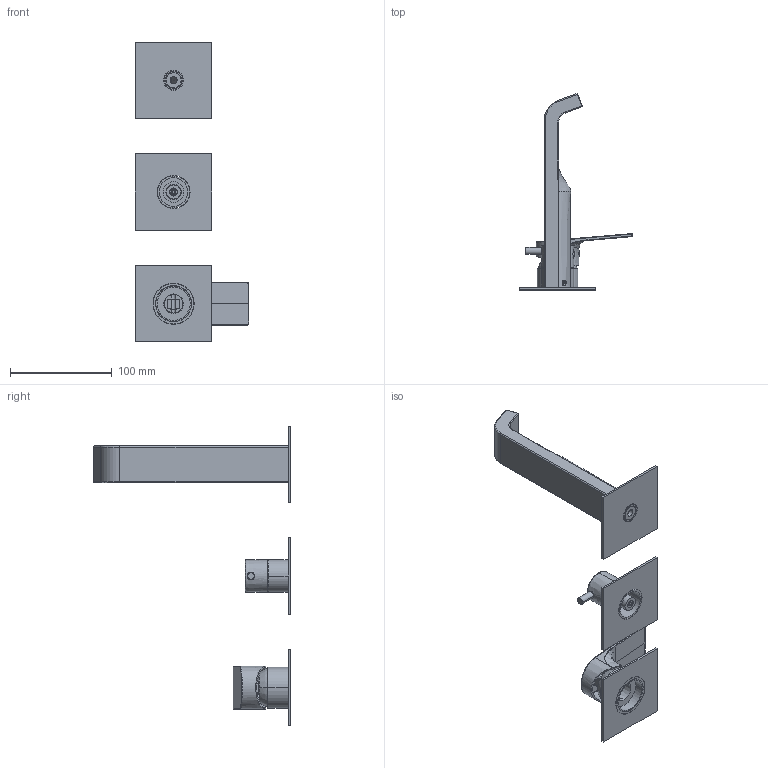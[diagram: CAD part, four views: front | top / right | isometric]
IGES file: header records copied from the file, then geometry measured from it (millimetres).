
Start section:  PTC IGES file: 3d_sw0006.igs
Global section: file name: 3d_sw0006.igs; native system: Creo Parametric by PTC Inc.; preprocessor: 2022014; author: volponeff; organization: Unknown; date: 20240930.145635; units: millimetre
Bounding box: 111.29 x 193.44 x 295 mm (x, y, z)
Surface area: 132240.3 mm2 (no closed solid volume)
Topology: 0 solids, 0 shells, 2059 faces, 10792 edges, 10766 vertices
Faces by surface type: bspline 1259, revolution 798, extrusion 2
